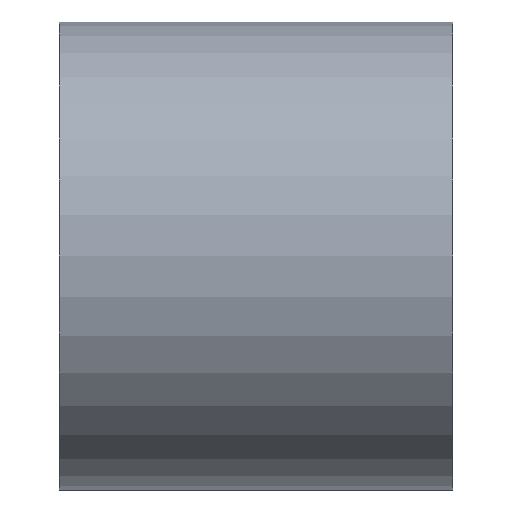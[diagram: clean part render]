
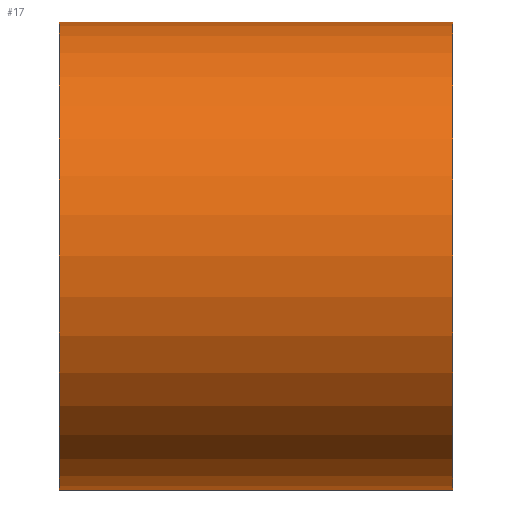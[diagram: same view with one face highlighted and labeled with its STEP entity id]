
A CAD part, left-side view. The second image highlights one B-rep face of the part: STEP entity #17.
In plain terms, the highlighted cylindrical face has radius 12.7 mm (diameter 25.4 mm), a partial arc.
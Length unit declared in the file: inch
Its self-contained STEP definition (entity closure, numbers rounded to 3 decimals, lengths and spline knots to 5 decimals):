
#2 = EDGE_CURVE ( 'NONE', #175, #149, #131, .T. ) ;
#3 = EDGE_CURVE ( 'NONE', #169, #167, #133, .T. ) ;
#11 = EDGE_CURVE ( 'NONE', #149, #167, #147, .T. ) ;
#13 = EDGE_CURVE ( 'NONE', #175, #169, #142, .T. ) ;
#17 = ADVANCED_FACE ( 'NONE', ( #57 ), #41, .T. ) ;
#41 = CYLINDRICAL_SURFACE ( 'NONE', #361, 0.5 ) ;
#57 = FACE_OUTER_BOUND ( 'NONE', #115, .T. ) ;
#71 = ORIENTED_EDGE ( 'NONE', *, *, #11, .F. ) ;
#72 = ORIENTED_EDGE ( 'NONE', *, *, #3, .T. ) ;
#78 = ORIENTED_EDGE ( 'NONE', *, *, #2, .F. ) ;
#112 = ORIENTED_EDGE ( 'NONE', *, *, #13, .T. ) ;
#115 = EDGE_LOOP ( 'NONE', ( #71, #78, #112, #72 ) ) ;
#131 = CIRCLE ( 'NONE', #353, 0.5 ) ;
#133 = CIRCLE ( 'NONE', #359, 0.5 ) ;
#140 = VECTOR ( 'NONE', #188, 39.37008 ) ;
#142 = LINE ( 'NONE', #186, #140 ) ;
#143 = VECTOR ( 'NONE', #181, 39.37008 ) ;
#147 = LINE ( 'NONE', #179, #143 ) ;
#149 = VERTEX_POINT ( 'NONE', #294 ) ;
#152 = CARTESIAN_POINT ( 'NONE',  ( 0., -0.42, 0. ) ) ;
#153 = DIRECTION ( 'NONE',  ( 0., 1., 0. ) ) ;
#154 = DIRECTION ( 'NONE',  ( 0., 0., 1. ) ) ;
#159 = CARTESIAN_POINT ( 'NONE',  ( 0., 0.42, 0. ) ) ;
#167 = VERTEX_POINT ( 'NONE', #262 ) ;
#169 = VERTEX_POINT ( 'NONE', #271 ) ;
#172 = DIRECTION ( 'NONE',  ( 0., 1., 0. ) ) ;
#174 = DIRECTION ( 'NONE',  ( 0., 0., 1. ) ) ;
#175 = VERTEX_POINT ( 'NONE', #288 ) ;
#179 = CARTESIAN_POINT ( 'NONE',  ( 0., 0.42, 0.5 ) ) ;
#181 = DIRECTION ( 'NONE',  ( 0., -1., 0. ) ) ;
#186 = CARTESIAN_POINT ( 'NONE',  ( 0., 0.42, -0.5 ) ) ;
#188 = DIRECTION ( 'NONE',  ( 0., -1., 0. ) ) ;
#202 = CARTESIAN_POINT ( 'NONE',  ( 0., 0.42, 0. ) ) ;
#214 = DIRECTION ( 'NONE',  ( 0., -1., 0. ) ) ;
#223 = DIRECTION ( 'NONE',  ( 0., 0., -1. ) ) ;
#262 = CARTESIAN_POINT ( 'NONE',  ( 0., -0.42, 0.5 ) ) ;
#271 = CARTESIAN_POINT ( 'NONE',  ( 0., -0.42, -0.5 ) ) ;
#288 = CARTESIAN_POINT ( 'NONE',  ( 0., 0.42, -0.5 ) ) ;
#294 = CARTESIAN_POINT ( 'NONE',  ( 0., 0.42, 0.5 ) ) ;
#353 = AXIS2_PLACEMENT_3D ( 'NONE', #159, #172, #174 ) ;
#359 = AXIS2_PLACEMENT_3D ( 'NONE', #152, #153, #154 ) ;
#361 = AXIS2_PLACEMENT_3D ( 'NONE', #202, #214, #223 ) ;
